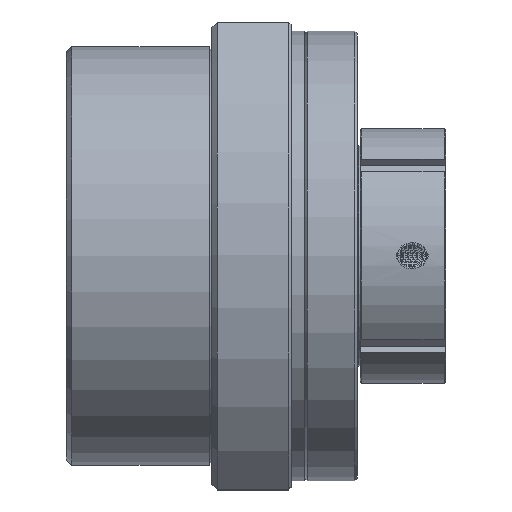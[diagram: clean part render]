
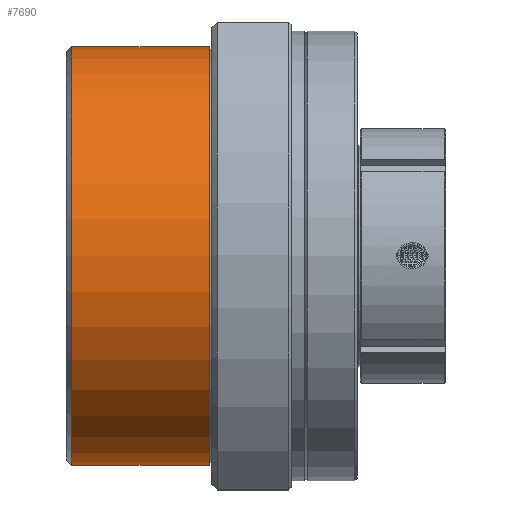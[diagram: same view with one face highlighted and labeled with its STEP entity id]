
A CAD part, top view. The second image highlights one B-rep face of the part: STEP entity #7690.
In plain terms, the highlighted cylindrical face has radius 47.5 mm (diameter 95 mm), a full revolution.
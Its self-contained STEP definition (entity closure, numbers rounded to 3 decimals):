
#3882=EDGE_CURVE('',#10863,#10863,#10864,.T.);
#6082=EDGE_CURVE('',#14465,#14465,#14466,.T.);
#7690=ADVANCED_FACE('',(#16867,#16868),#16869,.T.);
#10863=VERTEX_POINT('',#21658);
#10864=CIRCLE('',#21659,47.5);
#14465=VERTEX_POINT('',#27556);
#14466=CIRCLE('',#27557,47.5);
#16867=FACE_OUTER_BOUND('',#32043,.T.);
#16868=FACE_OUTER_BOUND('',#32044,.T.);
#16869=CYLINDRICAL_SURFACE('',#32045,47.5);
#21658=CARTESIAN_POINT('',(32.4,0.0,47.5));
#21659=AXIS2_PLACEMENT_3D('',#38553,#38554,#38555);
#27556=CARTESIAN_POINT('',(1.2,0.0,47.5));
#27557=AXIS2_PLACEMENT_3D('',#42864,#42865,#42866);
#32043=EDGE_LOOP('',(#45888));
#32044=EDGE_LOOP('',(#45889));
#32045=AXIS2_PLACEMENT_3D('',#45890,#45891,#45892);
#38553=CARTESIAN_POINT('',(32.4,0.0,0.0));
#38554=DIRECTION('',(1.0,0.0,-0.0));
#38555=DIRECTION('',(0.0,0.0,1.0));
#42864=CARTESIAN_POINT('',(1.2,0.0,0.0));
#42865=DIRECTION('',(1.0,0.0,-0.0));
#42866=DIRECTION('',(0.0,0.0,1.0));
#45888=ORIENTED_EDGE('',*,*,#3882,.F.);
#45889=ORIENTED_EDGE('',*,*,#6082,.T.);
#45890=CARTESIAN_POINT('',(16.8,0.0,0.0));
#45891=DIRECTION('',(-1.0,0.0,0.0));
#45892=DIRECTION('',(0.0,0.0,1.0));
